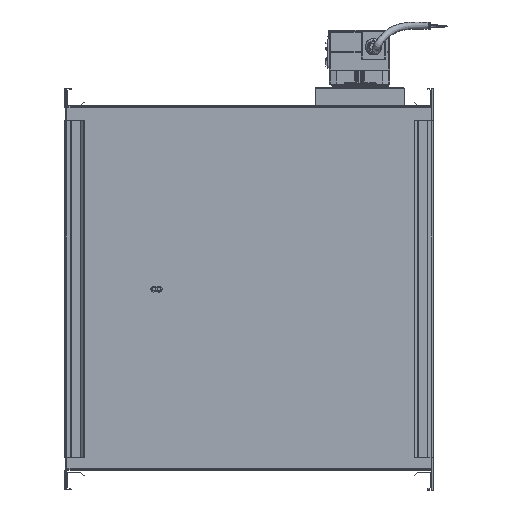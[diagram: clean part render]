
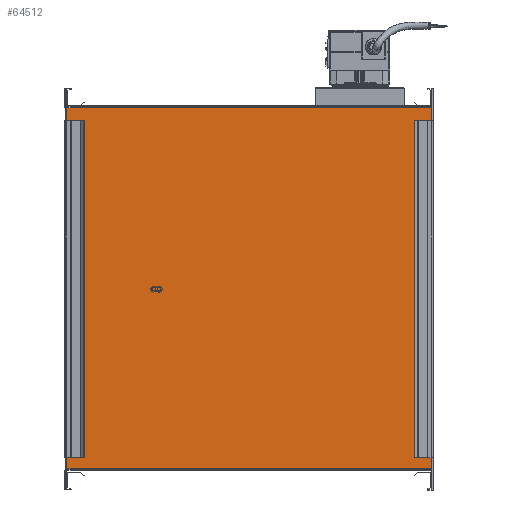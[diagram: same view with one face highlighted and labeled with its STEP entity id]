
A CAD part, front view. The second image highlights one B-rep face of the part: STEP entity #64512.
In plain terms, the highlighted planar face has unit normal (0, -1, 0).
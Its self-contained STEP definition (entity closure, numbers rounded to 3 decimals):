
#1522 = PLANE ( 'NONE',  #23845 ) ;
#4027 = CARTESIAN_POINT ( 'NONE',  ( -244.423, -185.848, 902. ) ) ;
#5671 = VECTOR ( 'NONE', #8486, 1000. ) ;
#6823 = CARTESIAN_POINT ( 'NONE',  ( 155.577, -185.848, 1298. ) ) ;
#8001 = CARTESIAN_POINT ( 'NONE',  ( -244.423, -185.848, 902. ) ) ;
#8421 = EDGE_CURVE ( 'NONE', #88520, #92175, #14060, .T. ) ;
#8486 = DIRECTION ( 'NONE',  ( 1., 0., 0. ) ) ;
#12422 = VECTOR ( 'NONE', #81771, 1000. ) ;
#12817 = LINE ( 'NONE', #93459, #5671 ) ;
#14060 = LINE ( 'NONE', #41534, #36335 ) ;
#15729 = EDGE_CURVE ( 'NONE', #32844, #48468, #12817, .T. ) ;
#23845 = AXIS2_PLACEMENT_3D ( 'NONE', #30389, #37937, #58894 ) ;
#27933 = DIRECTION ( 'NONE',  ( 0., 0., -1. ) ) ;
#30389 = CARTESIAN_POINT ( 'NONE',  ( -244.423, -185.848, 902. ) ) ;
#32844 = VERTEX_POINT ( 'NONE', #8001 ) ;
#36250 = EDGE_CURVE ( 'NONE', #92175, #48468, #83943, .T. ) ;
#36335 = VECTOR ( 'NONE', #70539, 1000. ) ;
#36677 = ORIENTED_EDGE ( 'NONE', *, *, #15729, .T. ) ;
#37937 = DIRECTION ( 'NONE',  ( 0., -1., 0. ) ) ;
#41534 = CARTESIAN_POINT ( 'NONE',  ( -244.423, -185.848, 1298. ) ) ;
#43983 = CARTESIAN_POINT ( 'NONE',  ( 155.577, -185.848, 902. ) ) ;
#44454 = ORIENTED_EDGE ( 'NONE', *, *, #36250, .F. ) ;
#48468 = VERTEX_POINT ( 'NONE', #43983 ) ;
#58894 = DIRECTION ( 'NONE',  ( 0., 0., -1. ) ) ;
#60514 = CARTESIAN_POINT ( 'NONE',  ( -244.423, -185.848, 1298. ) ) ;
#61401 = ORIENTED_EDGE ( 'NONE', *, *, #73472, .T. ) ;
#64159 = EDGE_LOOP ( 'NONE', ( #44454, #70491, #61401, #36677 ) ) ;
#64512 = ADVANCED_FACE ( 'NONE', ( #81631 ), #1522, .T. ) ;
#70491 = ORIENTED_EDGE ( 'NONE', *, *, #8421, .F. ) ;
#70539 = DIRECTION ( 'NONE',  ( 1., 0., 0. ) ) ;
#73472 = EDGE_CURVE ( 'NONE', #88520, #32844, #90348, .T. ) ;
#74136 = VECTOR ( 'NONE', #27933, 1000. ) ;
#81631 = FACE_OUTER_BOUND ( 'NONE', #64159, .T. ) ;
#81771 = DIRECTION ( 'NONE',  ( 0., 0., -1. ) ) ;
#83462 = CARTESIAN_POINT ( 'NONE',  ( 155.577, -185.848, 902. ) ) ;
#83943 = LINE ( 'NONE', #83462, #74136 ) ;
#88520 = VERTEX_POINT ( 'NONE', #60514 ) ;
#90348 = LINE ( 'NONE', #4027, #12422 ) ;
#92175 = VERTEX_POINT ( 'NONE', #6823 ) ;
#93459 = CARTESIAN_POINT ( 'NONE',  ( -244.423, -185.848, 902. ) ) ;
